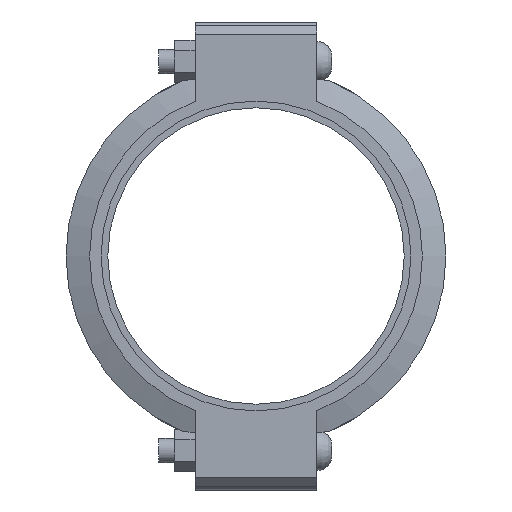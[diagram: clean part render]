
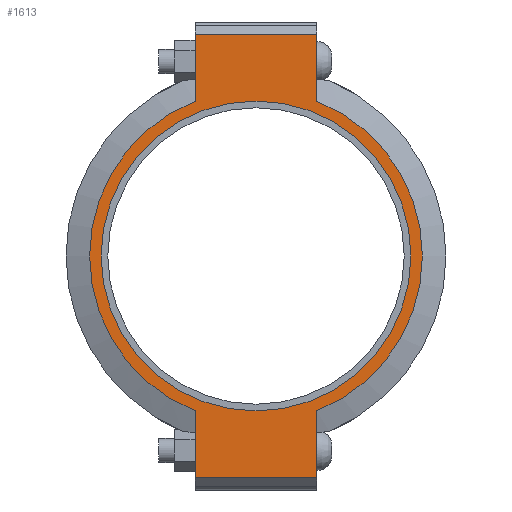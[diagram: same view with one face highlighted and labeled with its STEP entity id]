
A CAD part, left-side view. The second image highlights one B-rep face of the part: STEP entity #1613.
In plain terms, the highlighted planar face has unit normal (-1, 0, 0) as drawn and (0, 0, 1) by its records, which use the part's own axes.
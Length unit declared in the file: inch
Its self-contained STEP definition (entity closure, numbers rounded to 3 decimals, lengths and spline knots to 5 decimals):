
#184=LINE('',#2787,#273);
#195=LINE('',#2838,#284);
#201=LINE('',#2864,#290);
#203=LINE('',#2867,#292);
#204=LINE('',#2872,#293);
#205=LINE('',#2873,#294);
#273=VECTOR('',#2271,0.3937);
#284=VECTOR('',#2302,0.3937);
#290=VECTOR('',#2320,0.3937);
#292=VECTOR('',#2324,0.3937);
#293=VECTOR('',#2329,0.3937);
#294=VECTOR('',#2330,0.3937);
#356=FACE_BOUND('',#533,.T.);
#424=FACE_OUTER_BOUND('',#532,.T.);
#532=EDGE_LOOP('',(#1308,#1309,#1310,#1311,#1312,#1313,#1314,#1315));
#533=EDGE_LOOP('',(#1316));
#615=CIRCLE('',#1841,6.375);
#639=CIRCLE('',#1893,6.84375);
#640=CIRCLE('',#1894,6.84375);
#711=VERTEX_POINT('',#2613);
#752=VERTEX_POINT('',#2784);
#753=VERTEX_POINT('',#2786);
#770=VERTEX_POINT('',#2833);
#771=VERTEX_POINT('',#2837);
#778=VERTEX_POINT('',#2859);
#779=VERTEX_POINT('',#2863);
#780=VERTEX_POINT('',#2869);
#781=VERTEX_POINT('',#2871);
#875=EDGE_CURVE('',#711,#711,#615,.T.);
#932=EDGE_CURVE('',#753,#752,#184,.T.);
#953=EDGE_CURVE('',#771,#770,#195,.T.);
#964=EDGE_CURVE('',#779,#778,#201,.T.);
#966=EDGE_CURVE('',#779,#752,#203,.T.);
#967=EDGE_CURVE('',#778,#780,#639,.T.);
#968=EDGE_CURVE('',#780,#781,#204,.T.);
#969=EDGE_CURVE('',#771,#781,#205,.T.);
#970=EDGE_CURVE('',#770,#753,#640,.T.);
#1308=ORIENTED_EDGE('',*,*,#966,.F.);
#1309=ORIENTED_EDGE('',*,*,#964,.T.);
#1310=ORIENTED_EDGE('',*,*,#967,.T.);
#1311=ORIENTED_EDGE('',*,*,#968,.T.);
#1312=ORIENTED_EDGE('',*,*,#969,.F.);
#1313=ORIENTED_EDGE('',*,*,#953,.T.);
#1314=ORIENTED_EDGE('',*,*,#970,.T.);
#1315=ORIENTED_EDGE('',*,*,#932,.T.);
#1316=ORIENTED_EDGE('',*,*,#875,.T.);
#1453=PLANE('',#1892);
#1613=ADVANCED_FACE('',(#424,#356),#1453,.T.);
#1841=AXIS2_PLACEMENT_3D('',#2615,#2161,#2162);
#1892=AXIS2_PLACEMENT_3D('',#2868,#2325,#2326);
#1893=AXIS2_PLACEMENT_3D('',#2870,#2327,#2328);
#1894=AXIS2_PLACEMENT_3D('',#2874,#2331,#2332);
#2161=DIRECTION('center_axis',(0.,0.,-1.));
#2162=DIRECTION('ref_axis',(-1.,0.,0.));
#2271=DIRECTION('',(-1.,0.,0.));
#2302=DIRECTION('',(-1.,0.,0.));
#2320=DIRECTION('',(1.,0.,0.));
#2324=DIRECTION('',(0.,1.,0.));
#2325=DIRECTION('center_axis',(0.,0.,1.));
#2326=DIRECTION('ref_axis',(1.,0.,0.));
#2327=DIRECTION('center_axis',(0.,0.,1.));
#2328=DIRECTION('ref_axis',(-1.,0.,0.));
#2329=DIRECTION('',(1.,0.,0.));
#2330=DIRECTION('',(0.,-1.,0.));
#2331=DIRECTION('center_axis',(0.,0.,1.));
#2332=DIRECTION('ref_axis',(-1.,0.,0.));
#2613=CARTESIAN_POINT('',(6.375,0.,1.315));
#2615=CARTESIAN_POINT('Origin',(0.,0.,1.315));
#2784=CARTESIAN_POINT('',(-9.125,2.5,1.315));
#2786=CARTESIAN_POINT('',(-6.37079,2.5,1.315));
#2787=CARTESIAN_POINT('',(9.625,2.5,1.315));
#2833=CARTESIAN_POINT('',(6.37079,2.5,1.315));
#2837=CARTESIAN_POINT('',(9.125,2.5,1.315));
#2838=CARTESIAN_POINT('',(9.625,2.5,1.315));
#2859=CARTESIAN_POINT('',(-6.37079,-2.5,1.315));
#2863=CARTESIAN_POINT('',(-9.125,-2.5,1.315));
#2864=CARTESIAN_POINT('',(-9.625,-2.5,1.315));
#2867=CARTESIAN_POINT('',(-9.125,1.25,1.315));
#2868=CARTESIAN_POINT('Origin',(0.,0.,
1.315));
#2869=CARTESIAN_POINT('',(6.37079,-2.5,1.315));
#2870=CARTESIAN_POINT('Origin',(0.,0.,1.315));
#2871=CARTESIAN_POINT('',(9.125,-2.5,1.315));
#2872=CARTESIAN_POINT('',(-9.625,-2.5,1.315));
#2873=CARTESIAN_POINT('',(9.125,-1.25,1.315));
#2874=CARTESIAN_POINT('Origin',(0.,0.,1.315));
